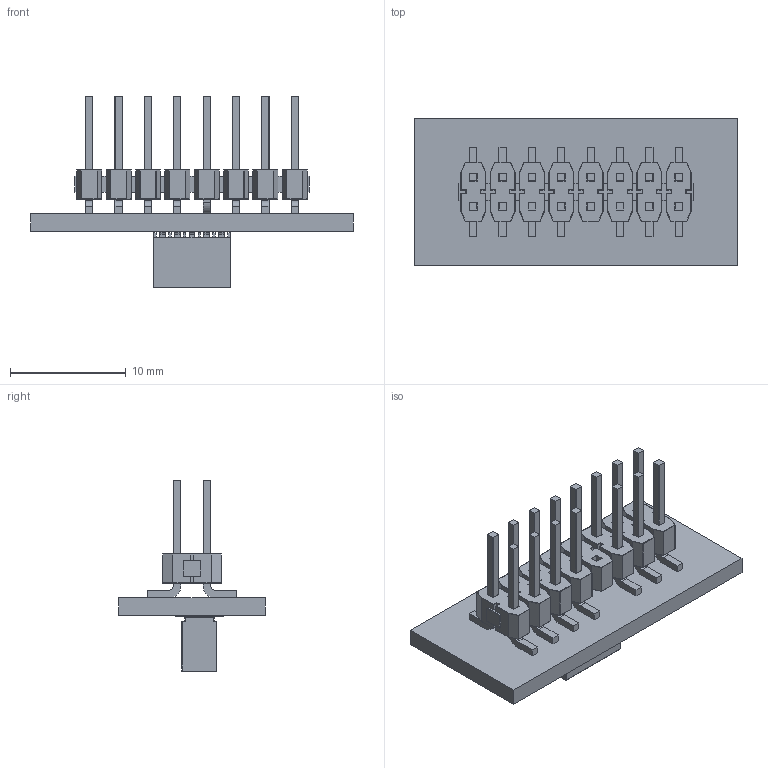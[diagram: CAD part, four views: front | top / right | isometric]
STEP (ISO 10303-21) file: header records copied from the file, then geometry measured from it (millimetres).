
FILE_DESCRIPTION(('Open CASCADE Model'),'2;1');
FILE_NAME('Open CASCADE Shape Model','2024-04-16T16:30:22',('Author'),( 'Open CASCADE'),'Open CASCADE STEP processor 7.5','Open CASCADE 7.5' ,'Unknown');
FILE_SCHEMA(('AUTOMOTIVE_DESIGN { 1 0 10303 214 1 1 1 1 }'));
Length unit declared in the file: millimetre
Products named in the file (16): PCB; Board; Open CASCADE STEP translator 7.5 1.1.1; J2; Conn_SFMC-105-02-S-D-K-TR_CONN_RCPT10; SFMC-105-02-S-D-K-TR; SFMC-105-02-K_socket; C-05-02_spins; Samtec; Pin1_Triangle; J1; Conn_TSM-108-01-L-DV-008-P-TR_HDR15; TSM-104-01-DV-008_body; T-1S6-16(-01-4-DV008); Tail
Assembly tree (15 placements, depth 5):
  PCB
    Board
      Open CASCADE STEP translator 7.5 1.1.1
    J2
      Conn_SFMC-105-02-S-D-K-TR_CONN_RCPT10
        SFMC-105-02-S-D-K-TR
          SFMC-105-02-K_socket
          C-05-02_spins
          Samtec
          Pin1_Triangle
    J1
      Conn_TSM-108-01-L-DV-008-P-TR_HDR15
        TSM-104-01-DV-008_body
        T-1S6-16(-01-4-DV008)
        Tail
        Samtec
Bounding box: 27.94 x 12.7 x 16.55 mm (x, y, z)
Volume: 892.6 mm3; surface area: 2170.9 mm2
Topology: 29 solids, 29 shells, 2336 faces, 5455 edges, 3184 vertices
Faces by surface type: plane 1009, cylinder 911, sphere 328, bspline 88
Entity records: 67145 total; most frequent: CARTESIAN_POINT 12003, DIRECTION 11411, ORIENTED_EDGE 10894, EDGE_CURVE 5447, AXIS2_PLACEMENT_3D 3832, LINE 3747, VECTOR 3747, VERTEX_POINT 3184
